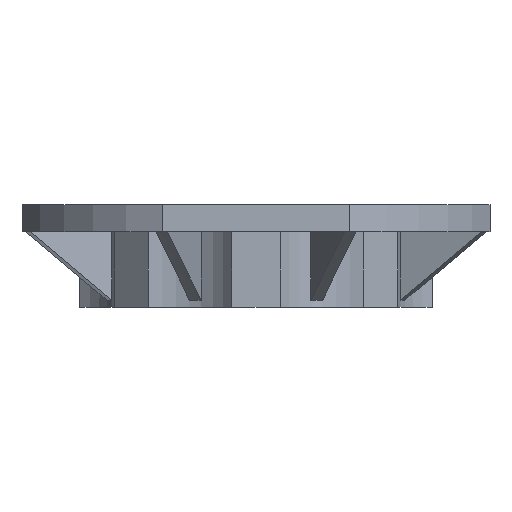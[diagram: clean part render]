
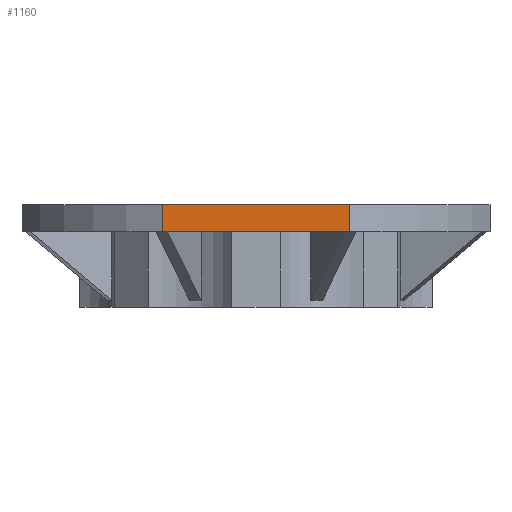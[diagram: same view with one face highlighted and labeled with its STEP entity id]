
A CAD part, front view. The second image highlights one B-rep face of the part: STEP entity #1160.
In plain terms, the highlighted planar face has unit normal (0, -1, 0).
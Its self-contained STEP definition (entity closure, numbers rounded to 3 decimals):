
#1160=ADVANCED_FACE('',(#1286),#3281,.T.);
#1286=FACE_OUTER_BOUND('',#1440,.T.);
#1440=EDGE_LOOP('',(#2061,#2062,#2063,#2064));
#2061=ORIENTED_EDGE('',*,*,#2226,.T.);
#2062=ORIENTED_EDGE('',*,*,#2156,.F.);
#2063=ORIENTED_EDGE('',*,*,#2215,.T.);
#2064=ORIENTED_EDGE('',*,*,#2152,.F.);
#2152=EDGE_CURVE('',#3008,#3005,#2490,.T.);
#2156=EDGE_CURVE('',#3012,#3009,#2492,.T.);
#2215=EDGE_CURVE('',#3012,#3005,#2523,.T.);
#2226=EDGE_CURVE('',#3008,#3009,#2532,.T.);
#2490=B_SPLINE_CURVE_WITH_KNOTS('',1,(#4804,#4805),.UNSPECIFIED.,.F.,.F.,
(2,2),(0.,15.),.UNSPECIFIED.);
#2492=B_SPLINE_CURVE_WITH_KNOTS('',1,(#4814,#4815),.UNSPECIFIED.,.F.,.F.,
(2,2),(0.,15.),.UNSPECIFIED.);
#2523=B_SPLINE_CURVE_WITH_KNOTS('',1,(#4960,#4961),.UNSPECIFIED.,.F.,.F.,
(2,2),(-103.923,0.),.UNSPECIFIED.);
#2532=B_SPLINE_CURVE_WITH_KNOTS('',1,(#4984,#4985),.UNSPECIFIED.,.F.,.F.,
(2,2),(-103.923,0.),.UNSPECIFIED.);
#3005=VERTEX_POINT('',#4562);
#3008=VERTEX_POINT('',#4565);
#3009=VERTEX_POINT('',#4566);
#3012=VERTEX_POINT('',#4569);
#3281=PLANE('',#3629);
#3629=AXIS2_PLACEMENT_3D('',#4537,#3925,$);
#3925=DIRECTION('',(0.,-1.,0.));
#4537=CARTESIAN_POINT('',(40.44,-130.,-62.414));
#4562=CARTESIAN_POINT('',(42.,-130.,-51.962));
#4565=CARTESIAN_POINT('',(57.,-130.,-51.962));
#4566=CARTESIAN_POINT('',(57.,-130.,51.962));
#4569=CARTESIAN_POINT('',(42.,-130.,51.962));
#4804=CARTESIAN_POINT('',(57.,-130.,-51.962));
#4805=CARTESIAN_POINT('',(42.,-130.,-51.962));
#4814=CARTESIAN_POINT('',(42.,-130.,51.962));
#4815=CARTESIAN_POINT('',(57.,-130.,51.962));
#4960=CARTESIAN_POINT('',(42.,-130.,51.962));
#4961=CARTESIAN_POINT('',(42.,-130.,-51.962));
#4984=CARTESIAN_POINT('',(57.,-130.,-51.962));
#4985=CARTESIAN_POINT('',(57.,-130.,51.962));
